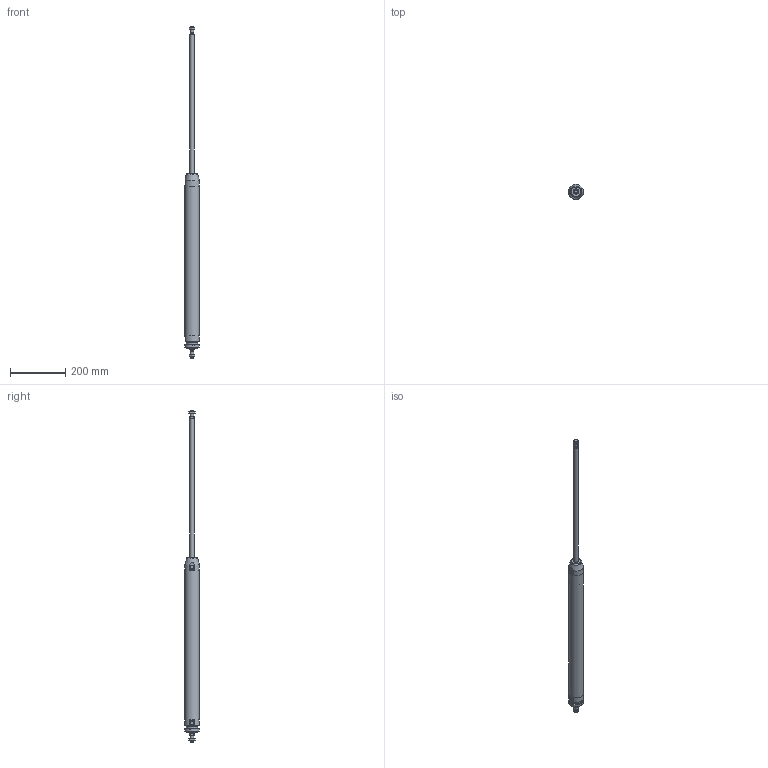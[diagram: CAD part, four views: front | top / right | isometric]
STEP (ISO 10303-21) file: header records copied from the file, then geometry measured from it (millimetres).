
FILE_DESCRIPTION(/* description */ (''),/* implementation_level */ '2;1');
FILE_NAME(/* name */ 'I:\Area Tecnica\Documenti\A-Manieri\_Inventor\12X\12X#T_###_####_#_#\12XCT_050_0500_#_#.stp',/* time_stamp */ '2015-05-13T08:44:47+02:00',/* author */ ('maniean1'),/* organization */ ('Pneumax S.p.A.'),/* preprocessor_version */ 'ST-DEVELOPER v15.2',/* originating_system */ 'Autodesk Inventor 2014',/* authorisation */ '');
FILE_SCHEMA (('AUTOMOTIVE_DESIGN { 1 0 10303 214 3 1 1 }'));
Length unit declared in the file: millimetre
Products named in the file (7): C1250_619-0500; 12X50_604; SP12X50_0500; 12X_50_11; 12X50_613; G12X_050_05; 12XCT_050_0500_#_#
Bounding box: 54 x 54 x 1202 mm (x, y, z)
Volume: 648181.9 mm3; surface area: 278029.6 mm2
Topology: 7 solids, 7 shells, 107 faces, 238 edges, 152 vertices
Faces by surface type: plane 54, cylinder 26, cone 26, torus 1
Full cylindrical faces by diameter (mm): 10.2 x2, 11.4 x2, 12 x4, 14 x2, 15.6 x2, 16 x2, 38.2 x1, 40 x3, 50 x2, 54 x3
Entity records: 2546 total; most frequent: CARTESIAN_POINT 474, DIRECTION 433, ORIENTED_EDGE 338, AXIS2_PLACEMENT_3D 187, EDGE_CURVE 169, EDGE_LOOP 150, VERTEX_POINT 129, ADVANCED_FACE 96
